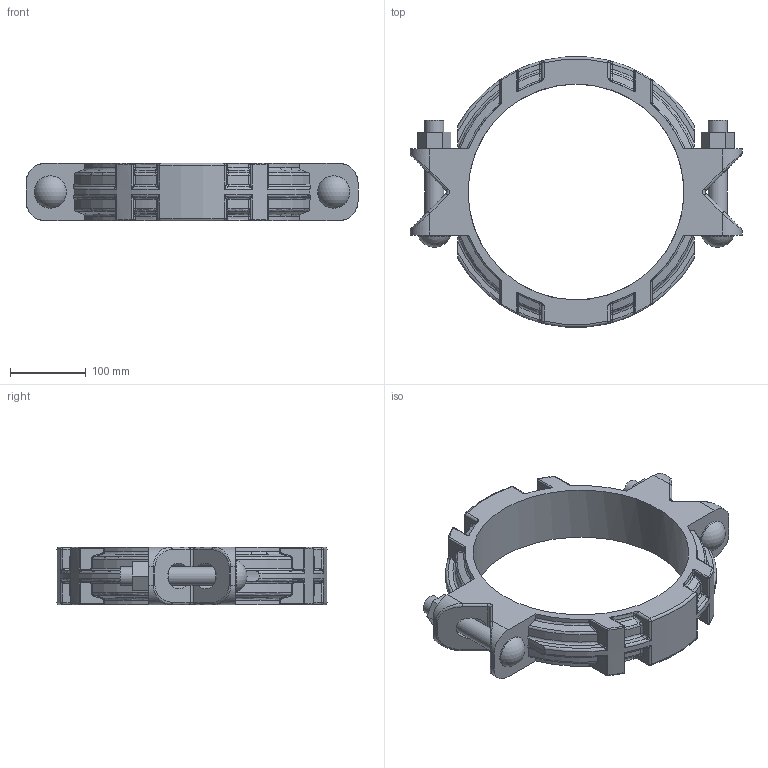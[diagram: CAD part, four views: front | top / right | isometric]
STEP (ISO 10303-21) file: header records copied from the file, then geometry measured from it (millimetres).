
FILE_DESCRIPTION(/* description */ ('VIC COUPLING STYLE XL 79','CAx-IF Rec.Pracs.---Representation and Presentation of Product Manufacturing Information (PMI)---4.0---2014-10-13'),/* implementation_level */ '2;1');
FILE_NAME(/* name */ 'C:\Users\kkamble\AppData\Roaming\Autodesk\ApplicationPlugins\Back Up\Victaulic_IPS-XL_Coupling_Style XL79 (XLG)\Victaulic_IPS-XL_Coupling_Style XL79 (XLG)_10 (250).stp',/* time_stamp */ '2020-08-05T13:50:10+05:00',/* author */ ('jheald'),/* organization */ ('Victaulic'),/* preprocessor_version */ 'ST-DEVELOPER v17.2',/* originating_system */ 'Autodesk Inventor 2019',/* authorisation */ '');
FILE_SCHEMA (('AP242_MANAGED_MODEL_BASED_3D_ENGINEERING_MIM_LF { 1 0 10303 442 1 1 4 }'));
Length unit declared in the file: inch
Products named in the file (1): XL79-10.0
Bounding box: 439.52 x 357.75 x 76.21 mm (x, y, z)
Volume: 2663023.4 mm3; surface area: 296322.1 mm2
Topology: 1 solids, 1 shells, 575 faces, 1375 edges, 788 vertices
Faces by surface type: cylinder 195, bspline 160, plane 82, torus 80, sphere 42, cone 16
Full cylindrical faces by diameter (mm): 25.4 x4, 42.85 x2, 285.75 x1
Entity records: 22618 total; most frequent: CARTESIAN_POINT 9633, ORIENTED_EDGE 2702, DIRECTION 2405, EDGE_CURVE 1351, AXIS2_PLACEMENT_3D 1005, VERTEX_POINT 788, EDGE_LOOP 591, STYLED_ITEM 577
